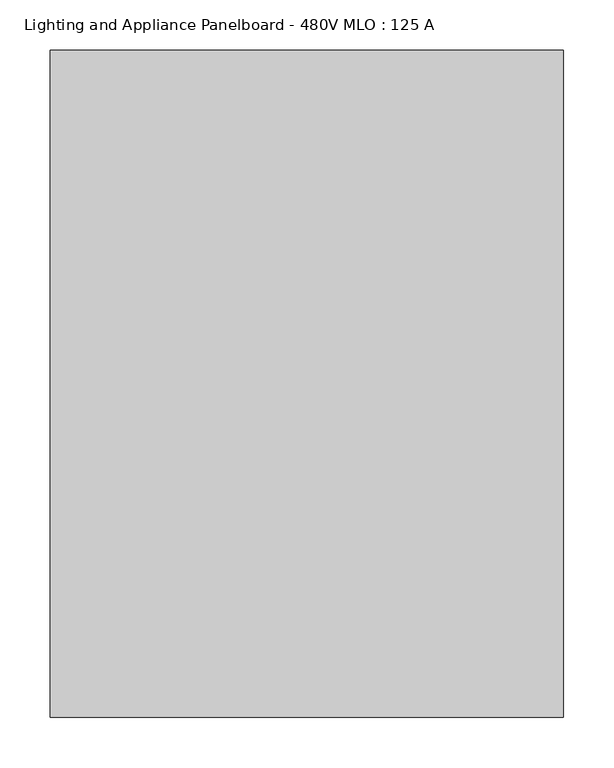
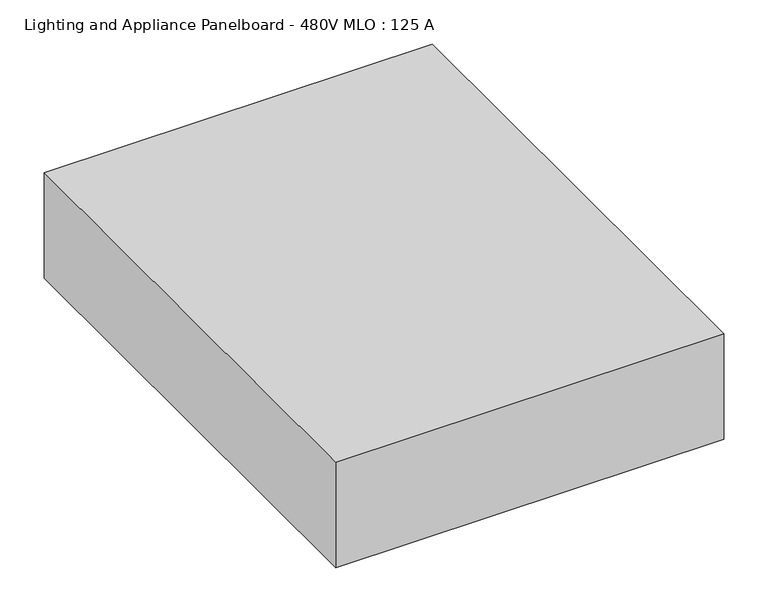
"""IFC4 building model written with IfcOpenShell, lengths in millimetres: proxy geometry, Lighting and Appliance Panelboard - 480V MLO : 125 A."""

from ifc_helpers import new_model, si_unit, frame, origin, place, context, project, spatial, polyline, outline, extrude, source, transform, mapped, element, save


def lighting_and_appliance_panelboard_480v_mlo_125_a_3907a416(model_context):
    return source(origin(), model_context, "Body", "SweptSolid", [
        extrude(outline(polyline([(254.0, 704.0725953), (254.0, 43.6725953), (-254.0, 43.6725953), (-254.0, 704.0725953), (254.0, 704.0725953)])), frame((0.0, 0.0, -146.05), z_axis=(0.0, 0.0, 1.0), x_axis=(1.0, 0.0, 0.0)), (0.0, 0.0, 1.0), 146.05),
    ])


if __name__ == "__main__":
    model = new_model("IFC4")
    model_context = context("Model", 3, world=origin())
    ifc_project = project(units=[si_unit("LENGTHUNIT", "METRE", prefix="MILLI")], contexts=[model_context])
    site = spatial("IfcSite", under=ifc_project)
    building = spatial("IfcBuilding", under=site)
    placement = place(None, origin())
    lighting_and_appliance_panelboard_480v_mlo_125_a_shape = lighting_and_appliance_panelboard_480v_mlo_125_a_3907a416(model_context)
    element("IfcBuildingElementProxy", 1, Name="Lighting and Appliance Panelboard - 480V MLO : 125 A", ObjectType="Lighting and Appliance Panelboard - 480V MLO : 125 A", at=placement, inside=building, context=model_context, shape_type="MappedRepresentation", body=[
        mapped(lighting_and_appliance_panelboard_480v_mlo_125_a_shape, transform((0.0, 0.0, 0.0), x_axis=(1.0, 0.0, 0.0), y_axis=(0.0, 1.0, 0.0), z_axis=(0.0, 0.0, 1.0))),
    ])
    save(model, "model.ifc")
